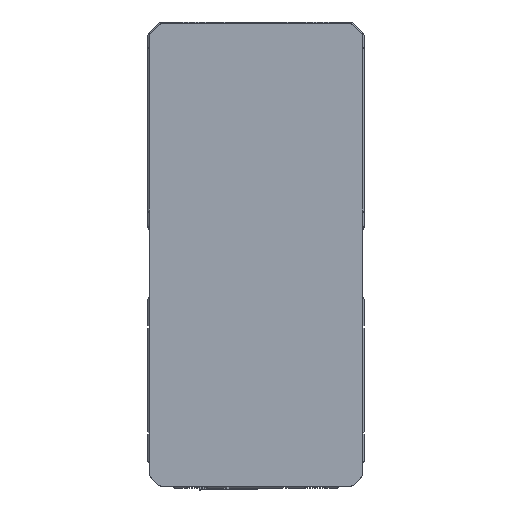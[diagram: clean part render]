
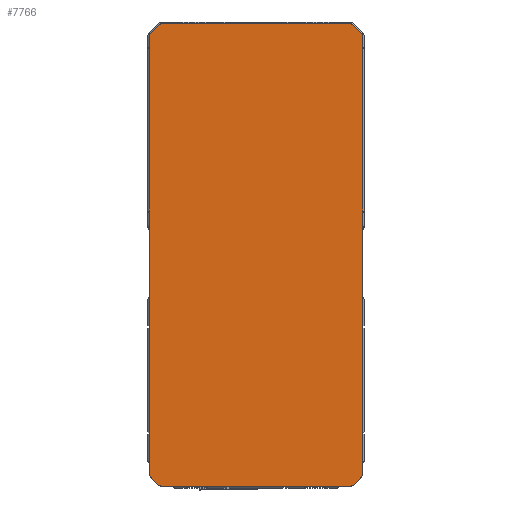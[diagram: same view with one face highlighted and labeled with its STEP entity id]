
A CAD part, top view. The second image highlights one B-rep face of the part: STEP entity #7766.
In plain terms, the highlighted planar face has unit normal (0, 0, 1).
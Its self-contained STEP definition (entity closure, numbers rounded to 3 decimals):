
#521 = ORIENTED_EDGE ( 'NONE', *, *, #36693, .T. ) ;
#1466 = DIRECTION ( 'NONE',  ( 0., 0., 1. ) ) ;
#1560 = DIRECTION ( 'NONE',  ( 0., 0., 1. ) ) ;
#1813 = CARTESIAN_POINT ( 'NONE',  ( 30.5, -103.079, 444. ) ) ;
#1935 = CARTESIAN_POINT ( 'NONE',  ( -28.079, -107., 444. ) ) ;
#2078 = CARTESIAN_POINT ( 'NONE',  ( -28.079, -105.5, 444. ) ) ;
#2445 = VERTEX_POINT ( 'NONE', #11802 ) ;
#2832 = CARTESIAN_POINT ( 'NONE',  ( -30.5, 28.079, 444. ) ) ;
#2873 = EDGE_CURVE ( 'NONE', #4643, #12738, #9889, .T. ) ;
#3748 = CARTESIAN_POINT ( 'NONE',  ( -32., -103.079, 444. ) ) ;
#3898 = CARTESIAN_POINT ( 'NONE',  ( -31.561, -104.139, 444. ) ) ;
#4049 = VERTEX_POINT ( 'NONE', #27198 ) ;
#4279 = LINE ( 'NONE', #10502, #28182 ) ;
#4643 = VERTEX_POINT ( 'NONE', #25801 ) ;
#4846 = EDGE_CURVE ( 'NONE', #23454, #17582, #30181, .T. ) ;
#4949 = DIRECTION ( 'NONE',  ( 1., 0., 0. ) ) ;
#5090 = DIRECTION ( 'NONE',  ( 1., 0., 0. ) ) ;
#5215 = DIRECTION ( 'NONE',  ( 1., 0., 0. ) ) ;
#5269 = VECTOR ( 'NONE', #13355, 1000. ) ;
#5495 = CIRCLE ( 'NONE', #17803, 1.5 ) ;
#5616 = CARTESIAN_POINT ( 'NONE',  ( -28.079, 30.5, 444. ) ) ;
#5861 = CARTESIAN_POINT ( 'NONE',  ( 29.139, -106.561, 444. ) ) ;
#5946 = VECTOR ( 'NONE', #27006, 1000. ) ;
#5962 = DIRECTION ( 'NONE',  ( 1., 0., 0. ) ) ;
#6199 = CIRCLE ( 'NONE', #37075, 1.5 ) ;
#6246 = LINE ( 'NONE', #19483, #5269 ) ;
#6331 = EDGE_CURVE ( 'NONE', #12738, #4049, #16186, .T. ) ;
#6372 = EDGE_CURVE ( 'NONE', #27878, #32754, #6914, .T. ) ;
#6890 = CARTESIAN_POINT ( 'NONE',  ( 28.079, -105.5, 444. ) ) ;
#6914 = LINE ( 'NONE', #8346, #5946 ) ;
#7016 = VERTEX_POINT ( 'NONE', #17749 ) ;
#7223 = VERTEX_POINT ( 'NONE', #18816 ) ;
#7552 = ORIENTED_EDGE ( 'NONE', *, *, #39866, .T. ) ;
#7751 = VECTOR ( 'NONE', #13638, 1000. ) ;
#7766 = ADVANCED_FACE ( 'NONE', ( #33643 ), #32733, .F. ) ;
#8346 = CARTESIAN_POINT ( 'NONE',  ( 29.139, -106.561, 444. ) ) ;
#8533 = EDGE_CURVE ( 'NONE', #7223, #18039, #30189, .T. ) ;
#8751 = DIRECTION ( 'NONE',  ( -1., 0., 0. ) ) ;
#9654 = VERTEX_POINT ( 'NONE', #40283 ) ;
#9774 = EDGE_CURVE ( 'NONE', #4049, #27878, #6199, .T. ) ;
#9889 = CIRCLE ( 'NONE', #30362, 1.5 ) ;
#10022 = DIRECTION ( 'NONE',  ( -1., 0., 0. ) ) ;
#10502 = CARTESIAN_POINT ( 'NONE',  ( -31.561, 29.139, 444. ) ) ;
#11802 = CARTESIAN_POINT ( 'NONE',  ( 31.561, 29.139, 444. ) ) ;
#11912 = AXIS2_PLACEMENT_3D ( 'NONE', #20117, #1466, #23259 ) ;
#11939 = EDGE_CURVE ( 'NONE', #32754, #19101, #25664, .T. ) ;
#12506 = CARTESIAN_POINT ( 'NONE',  ( 29.139, 31.561, 444. ) ) ;
#12738 = VERTEX_POINT ( 'NONE', #15781 ) ;
#12840 = VERTEX_POINT ( 'NONE', #3898 ) ;
#12893 = ORIENTED_EDGE ( 'NONE', *, *, #4846, .T. ) ;
#13355 = DIRECTION ( 'NONE',  ( 0., 1., 0. ) ) ;
#13367 = CARTESIAN_POINT ( 'NONE',  ( 32., -103.079, 444. ) ) ;
#13399 = VERTEX_POINT ( 'NONE', #37796 ) ;
#13508 = ORIENTED_EDGE ( 'NONE', *, *, #14857, .T. ) ;
#13638 = DIRECTION ( 'NONE',  ( -1., 0., 0. ) ) ;
#14099 = DIRECTION ( 'NONE',  ( 0., 0., -1. ) ) ;
#14474 = DIRECTION ( 'NONE',  ( 0.707, -0.707, 0. ) ) ;
#14640 = LINE ( 'NONE', #30010, #22907 ) ;
#14857 = EDGE_CURVE ( 'NONE', #27014, #7016, #29866, .T. ) ;
#15781 = CARTESIAN_POINT ( 'NONE',  ( -28.079, -107., 444. ) ) ;
#16048 = LINE ( 'NONE', #35424, #7751 ) ;
#16186 = LINE ( 'NONE', #1935, #31745 ) ;
#16391 = VECTOR ( 'NONE', #34273, 1000. ) ;
#16447 = CARTESIAN_POINT ( 'NONE',  ( -30.5, -103.079, 444. ) ) ;
#17353 = AXIS2_PLACEMENT_3D ( 'NONE', #2832, #24625, #5962 ) ;
#17582 = VERTEX_POINT ( 'NONE', #3748 ) ;
#17616 = ORIENTED_EDGE ( 'NONE', *, *, #8533, .T. ) ;
#17749 = CARTESIAN_POINT ( 'NONE',  ( 28.079, 32., 444. ) ) ;
#17803 = AXIS2_PLACEMENT_3D ( 'NONE', #16447, #38243, #19569 ) ;
#18039 = VERTEX_POINT ( 'NONE', #34201 ) ;
#18816 = CARTESIAN_POINT ( 'NONE',  ( -28.079, 32., 444. ) ) ;
#18984 = EDGE_LOOP ( 'NONE', ( #17616, #38880, #29689, #12893, #27996, #7552, #28045, #31115, #30638, #29608, #31465, #39225, #24420, #521, #13508, #36497 ) ) ;
#19101 = VERTEX_POINT ( 'NONE', #13367 ) ;
#19483 = CARTESIAN_POINT ( 'NONE',  ( 32., 28.079, 444. ) ) ;
#19526 = AXIS2_PLACEMENT_3D ( 'NONE', #5616, #27410, #8751 ) ;
#19569 = DIRECTION ( 'NONE',  ( -1., 0., 0. ) ) ;
#20117 = CARTESIAN_POINT ( 'NONE',  ( 30.5, 28.079, 444. ) ) ;
#20207 = CARTESIAN_POINT ( 'NONE',  ( 28.079, 30.5, 444. ) ) ;
#20762 = CARTESIAN_POINT ( 'NONE',  ( -32., 28.079, 444. ) ) ;
#20947 = EDGE_CURVE ( 'NONE', #7016, #7223, #16048, .T. ) ;
#21638 = EDGE_CURVE ( 'NONE', #19101, #13399, #6246, .T. ) ;
#21668 = EDGE_CURVE ( 'NONE', #18039, #9654, #4279, .T. ) ;
#22717 = LINE ( 'NONE', #12506, #16391 ) ;
#22907 = VECTOR ( 'NONE', #14474, 1000. ) ;
#23259 = DIRECTION ( 'NONE',  ( -1., 0., 0. ) ) ;
#23341 = DIRECTION ( 'NONE',  ( 1., 0., 0. ) ) ;
#23347 = CARTESIAN_POINT ( 'NONE',  ( -28.079, 30.5, 444. ) ) ;
#23454 = VERTEX_POINT ( 'NONE', #35253 ) ;
#23597 = DIRECTION ( 'NONE',  ( 0., 0., 1. ) ) ;
#23849 = DIRECTION ( 'NONE',  ( 0., 0., 1. ) ) ;
#24420 = ORIENTED_EDGE ( 'NONE', *, *, #31142, .T. ) ;
#24625 = DIRECTION ( 'NONE',  ( 0., 0., 1. ) ) ;
#25664 = CIRCLE ( 'NONE', #37136, 1.5 ) ;
#25720 = AXIS2_PLACEMENT_3D ( 'NONE', #20207, #1560, #23341 ) ;
#25801 = CARTESIAN_POINT ( 'NONE',  ( -29.139, -106.561, 444. ) ) ;
#27006 = DIRECTION ( 'NONE',  ( 0.707, 0.707, 0. ) ) ;
#27014 = VERTEX_POINT ( 'NONE', #35314 ) ;
#27198 = CARTESIAN_POINT ( 'NONE',  ( 28.079, -107., 444. ) ) ;
#27410 = DIRECTION ( 'NONE',  ( 0., 0., 1. ) ) ;
#27878 = VERTEX_POINT ( 'NONE', #5861 ) ;
#27996 = ORIENTED_EDGE ( 'NONE', *, *, #28070, .T. ) ;
#28045 = ORIENTED_EDGE ( 'NONE', *, *, #2873, .T. ) ;
#28070 = EDGE_CURVE ( 'NONE', #17582, #12840, #5495, .T. ) ;
#28167 = AXIS2_PLACEMENT_3D ( 'NONE', #23347, #14099, #35879 ) ;
#28182 = VECTOR ( 'NONE', #32273, 1000. ) ;
#28685 = DIRECTION ( 'NONE',  ( 0., 0., 1. ) ) ;
#29184 = VECTOR ( 'NONE', #39419, 1000. ) ;
#29608 = ORIENTED_EDGE ( 'NONE', *, *, #6372, .T. ) ;
#29689 = ORIENTED_EDGE ( 'NONE', *, *, #31378, .T. ) ;
#29866 = CIRCLE ( 'NONE', #25720, 1.5 ) ;
#30010 = CARTESIAN_POINT ( 'NONE',  ( -31.561, -104.139, 444. ) ) ;
#30181 = LINE ( 'NONE', #20762, #29184 ) ;
#30189 = CIRCLE ( 'NONE', #19526, 1.5 ) ;
#30284 = CIRCLE ( 'NONE', #17353, 1.5 ) ;
#30362 = AXIS2_PLACEMENT_3D ( 'NONE', #2078, #23849, #5215 ) ;
#30638 = ORIENTED_EDGE ( 'NONE', *, *, #9774, .T. ) ;
#31115 = ORIENTED_EDGE ( 'NONE', *, *, #6331, .T. ) ;
#31142 = EDGE_CURVE ( 'NONE', #13399, #2445, #31728, .T. ) ;
#31378 = EDGE_CURVE ( 'NONE', #9654, #23454, #30284, .T. ) ;
#31465 = ORIENTED_EDGE ( 'NONE', *, *, #11939, .T. ) ;
#31728 = CIRCLE ( 'NONE', #11912, 1.5 ) ;
#31745 = VECTOR ( 'NONE', #5090, 1000. ) ;
#32273 = DIRECTION ( 'NONE',  ( -0.707, -0.707, 0. ) ) ;
#32733 = PLANE ( 'NONE',  #28167 ) ;
#32754 = VERTEX_POINT ( 'NONE', #38118 ) ;
#33643 = FACE_OUTER_BOUND ( 'NONE', #18984, .T. ) ;
#34201 = CARTESIAN_POINT ( 'NONE',  ( -29.139, 31.561, 444. ) ) ;
#34273 = DIRECTION ( 'NONE',  ( -0.707, 0.707, 0. ) ) ;
#35253 = CARTESIAN_POINT ( 'NONE',  ( -32., 28.079, 444. ) ) ;
#35314 = CARTESIAN_POINT ( 'NONE',  ( 29.139, 31.561, 444. ) ) ;
#35424 = CARTESIAN_POINT ( 'NONE',  ( -28.079, 32., 444. ) ) ;
#35879 = DIRECTION ( 'NONE',  ( -1., 0., 0. ) ) ;
#36497 = ORIENTED_EDGE ( 'NONE', *, *, #20947, .T. ) ;
#36693 = EDGE_CURVE ( 'NONE', #2445, #27014, #22717, .T. ) ;
#37075 = AXIS2_PLACEMENT_3D ( 'NONE', #6890, #28685, #10022 ) ;
#37136 = AXIS2_PLACEMENT_3D ( 'NONE', #1813, #23597, #4949 ) ;
#37796 = CARTESIAN_POINT ( 'NONE',  ( 32., 28.079, 444. ) ) ;
#38118 = CARTESIAN_POINT ( 'NONE',  ( 31.561, -104.139, 444. ) ) ;
#38243 = DIRECTION ( 'NONE',  ( 0., 0., 1. ) ) ;
#38880 = ORIENTED_EDGE ( 'NONE', *, *, #21668, .T. ) ;
#39225 = ORIENTED_EDGE ( 'NONE', *, *, #21638, .T. ) ;
#39419 = DIRECTION ( 'NONE',  ( 0., -1., 0. ) ) ;
#39866 = EDGE_CURVE ( 'NONE', #12840, #4643, #14640, .T. ) ;
#40283 = CARTESIAN_POINT ( 'NONE',  ( -31.561, 29.139, 444. ) ) ;
